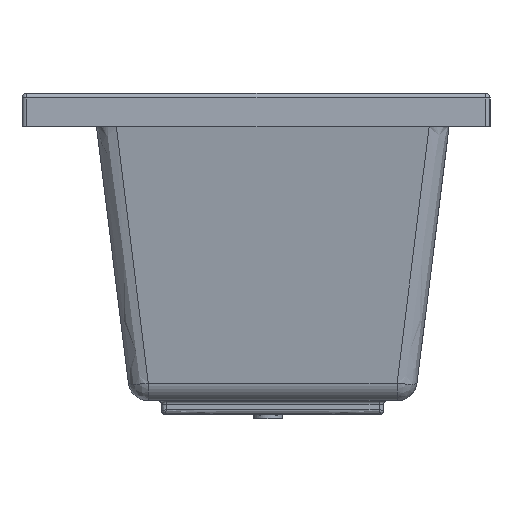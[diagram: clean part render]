
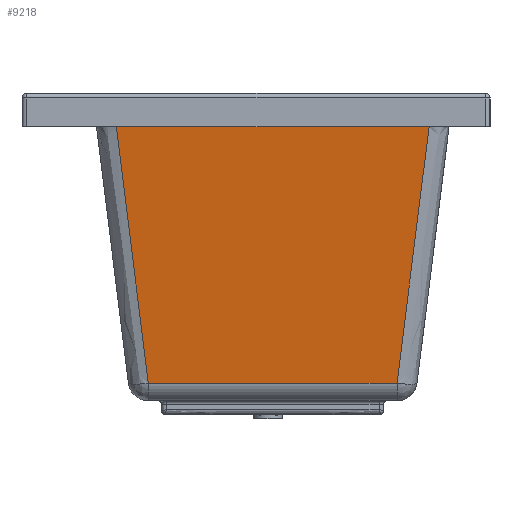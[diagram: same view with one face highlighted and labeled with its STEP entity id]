
A CAD part, left-side view. The second image highlights one B-rep face of the part: STEP entity #9218.
In plain terms, the highlighted free-form (B-spline) face has degree [1, 1] with [2, 2] control points.
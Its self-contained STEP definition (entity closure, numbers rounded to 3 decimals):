
#6905=CARTESIAN_POINT('',(1593.84,-63.777,50.0));
#6906=VERTEX_POINT('',#6905);
#6930=CARTESIAN_POINT('',(1593.84,-531.701,50.0));
#6931=VERTEX_POINT('',#6930);
#6932=CARTESIAN_POINT('',(1593.84,-63.777,50.0));
#6933=DIRECTION('',(0.0,-1.0,0.0));
#6934=VECTOR('',#6933,467.923);
#6935=LINE('',#6932,#6934);
#6936=EDGE_CURVE('',#6906,#6931,#6935,.T.);
#8894=CARTESIAN_POINT('',(1547.979,-111.722,433.562));
#8895=VERTEX_POINT('',#8894);
#8904=CARTESIAN_POINT('',(1547.979,-483.755,433.562));
#8905=VERTEX_POINT('',#8904);
#8913=CARTESIAN_POINT('',(1547.979,-111.722,433.562));
#8914=DIRECTION('',(0.0,-1.0,0.0));
#8915=VECTOR('',#8914,372.033);
#8916=LINE('',#8913,#8915);
#8917=EDGE_CURVE('',#8895,#8905,#8916,.T.);
#9193=CARTESIAN_POINT('',(1547.979,-483.755,433.562));
#9194=DIRECTION('',(0.118,-0.123,-0.985));
#9195=VECTOR('',#9194,389.258);
#9196=LINE('',#9193,#9195);
#9197=EDGE_CURVE('',#8905,#6931,#9196,.T.);
#9202=CARTESIAN_POINT('',(1547.979,-63.777,433.562));
#9203=CARTESIAN_POINT('',(1593.84,-63.777,50.0));
#9204=CARTESIAN_POINT('',(1547.979,-531.701,433.562));
#9205=CARTESIAN_POINT('',(1593.84,-531.701,50.0));
#9206=B_SPLINE_SURFACE_WITH_KNOTS('',1,1,((#9202,#9204),(#9203,#9205)),.UNSPECIFIED.,.F.,.F.,.U.,(2,2),(2,2),(0.0,386.294),(0.0,467.923),.UNSPECIFIED.);
#9207=ORIENTED_EDGE('',*,*,#8917,.T.);
#9208=ORIENTED_EDGE('',*,*,#9197,.T.);
#9209=ORIENTED_EDGE('',*,*,#6936,.F.);
#9210=CARTESIAN_POINT('',(1593.84,-63.777,50.0));
#9211=DIRECTION('',(-0.118,-0.123,0.985));
#9212=VECTOR('',#9211,389.258);
#9213=LINE('',#9210,#9212);
#9214=EDGE_CURVE('',#6906,#8895,#9213,.T.);
#9215=ORIENTED_EDGE('',*,*,#9214,.T.);
#9216=EDGE_LOOP('',(#9207,#9208,#9209,#9215));
#9217=FACE_OUTER_BOUND('',#9216,.T.);
#9218=ADVANCED_FACE('',(#9217),#9206,.F.);
